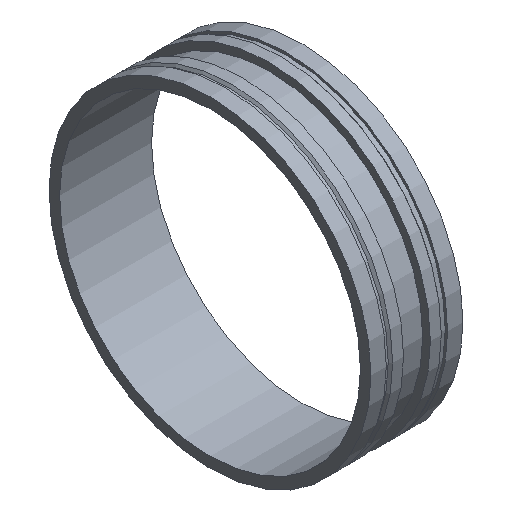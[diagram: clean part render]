
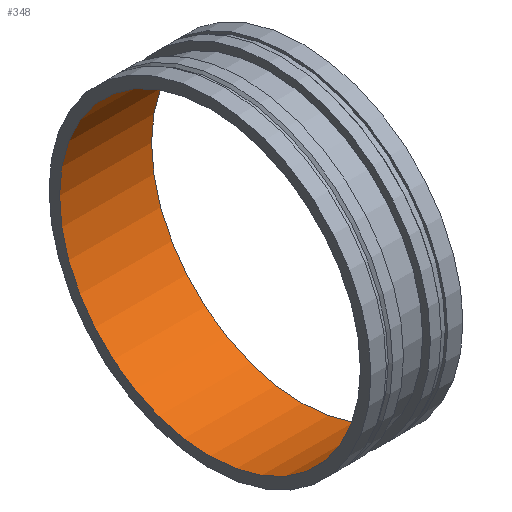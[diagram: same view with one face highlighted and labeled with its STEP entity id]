
A CAD part, isometric view. The second image highlights one B-rep face of the part: STEP entity #348.
In plain terms, the highlighted cylindrical face has radius 498.475 mm (diameter 996.95 mm), a full revolution.
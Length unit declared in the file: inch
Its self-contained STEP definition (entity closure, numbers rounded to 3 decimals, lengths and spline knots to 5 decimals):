
#56=LINE('',#654,#66);
#66=VECTOR('',#537,19.625);
#74=CYLINDRICAL_SURFACE('',#416,19.625);
#96=FACE_OUTER_BOUND('',#118,.T.);
#118=EDGE_LOOP('',(#303,#304,#305,#306,#307,#308));
#121=CIRCLE('',#372,19.625);
#122=CIRCLE('',#373,19.625);
#149=CIRCLE('',#414,19.625);
#150=CIRCLE('',#415,19.625);
#153=VERTEX_POINT('',#570);
#154=VERTEX_POINT('',#571);
#181=VERTEX_POINT('',#649);
#182=VERTEX_POINT('',#650);
#185=EDGE_CURVE('',#153,#154,#121,.T.);
#186=EDGE_CURVE('',#154,#153,#122,.T.);
#222=EDGE_CURVE('',#181,#182,#149,.T.);
#223=EDGE_CURVE('',#182,#181,#150,.T.);
#224=EDGE_CURVE('',#182,#154,#56,.T.);
#303=ORIENTED_EDGE('',*,*,#222,.T.);
#304=ORIENTED_EDGE('',*,*,#224,.T.);
#305=ORIENTED_EDGE('',*,*,#185,.F.);
#306=ORIENTED_EDGE('',*,*,#186,.F.);
#307=ORIENTED_EDGE('',*,*,#224,.F.);
#308=ORIENTED_EDGE('',*,*,#223,.T.);
#348=ADVANCED_FACE('',(#96),#74,.F.);
#372=AXIS2_PLACEMENT_3D('',#572,#438,#439);
#373=AXIS2_PLACEMENT_3D('',#573,#440,#441);
#414=AXIS2_PLACEMENT_3D('',#651,#531,#532);
#415=AXIS2_PLACEMENT_3D('',#652,#533,#534);
#416=AXIS2_PLACEMENT_3D('',#653,#535,#536);
#438=DIRECTION('center_axis',(1.,0.,0.));
#439=DIRECTION('ref_axis',(0.,0.,-1.));
#440=DIRECTION('center_axis',(1.,0.,0.));
#441=DIRECTION('ref_axis',(0.,0.,-1.));
#531=DIRECTION('center_axis',(1.,0.,0.));
#532=DIRECTION('ref_axis',(0.,0.,-1.));
#533=DIRECTION('center_axis',(1.,0.,0.));
#534=DIRECTION('ref_axis',(0.,0.,-1.));
#535=DIRECTION('center_axis',(1.,0.,0.));
#536=DIRECTION('ref_axis',(0.,1.,0.));
#537=DIRECTION('',(-1.,0.,0.));
#570=CARTESIAN_POINT('',(0.,19.625,0.));
#571=CARTESIAN_POINT('',(0.,-19.625,0.));
#572=CARTESIAN_POINT('Origin',(0.,0.,
0.));
#573=CARTESIAN_POINT('Origin',(0.,0.,
0.));
#649=CARTESIAN_POINT('',(12.,19.625,0.));
#650=CARTESIAN_POINT('',(12.,-19.625,0.));
#651=CARTESIAN_POINT('Origin',(12.,0.,0.));
#652=CARTESIAN_POINT('Origin',(12.,0.,0.));
#653=CARTESIAN_POINT('Origin',(6.,0.,0.));
#654=CARTESIAN_POINT('',(6.,-19.625,0.));
